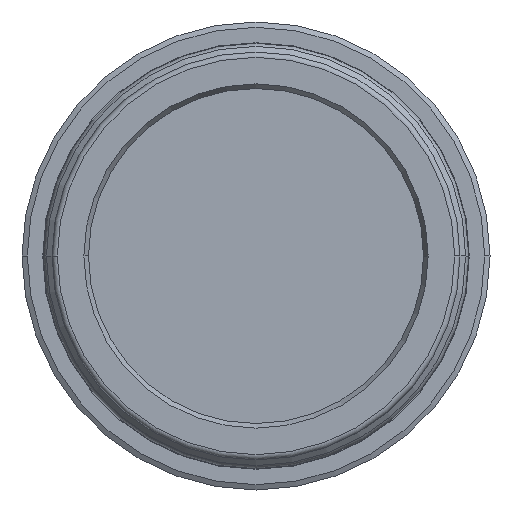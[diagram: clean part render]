
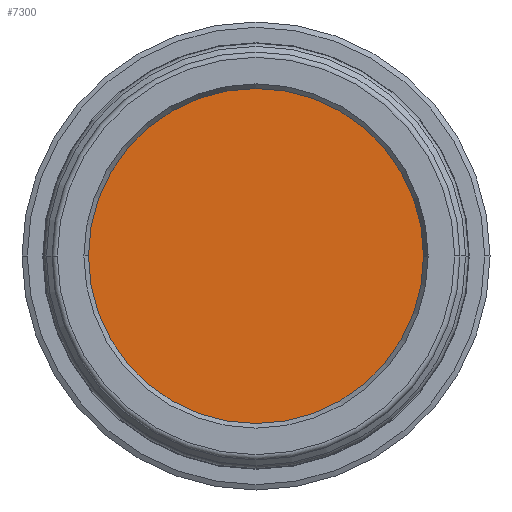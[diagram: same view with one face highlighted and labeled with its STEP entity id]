
A CAD part, front view. The second image highlights one B-rep face of the part: STEP entity #7300.
In plain terms, the highlighted planar face has unit normal (0, -1, 0).
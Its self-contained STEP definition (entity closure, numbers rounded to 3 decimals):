
#942 = PLANE ( 'NONE',  #9047 ) ;
#1652 = DIRECTION ( 'NONE',  ( 0., -1., 0. ) ) ;
#2528 = DIRECTION ( 'NONE',  ( 0., 0., -1. ) ) ;
#2584 = EDGE_CURVE ( 'NONE', #6054, #10655, #4181, .T. ) ;
#2612 = AXIS2_PLACEMENT_3D ( 'NONE', #6899, #1652, #2528 ) ;
#3265 = CARTESIAN_POINT ( 'NONE',  ( 0., 0., 0. ) ) ;
#4181 = CIRCLE ( 'NONE', #5046, 31.5 ) ;
#4858 = CARTESIAN_POINT ( 'NONE',  ( 0., 0., 31.5 ) ) ;
#5046 = AXIS2_PLACEMENT_3D ( 'NONE', #3265, #10119, #10939 ) ;
#5213 = EDGE_CURVE ( 'NONE', #10655, #6054, #7727, .T. ) ;
#6016 = DIRECTION ( 'NONE',  ( 0., 0., -1. ) ) ;
#6054 = VERTEX_POINT ( 'NONE', #4858 ) ;
#6135 = CARTESIAN_POINT ( 'NONE',  ( 0., 0., -31.5 ) ) ;
#6899 = CARTESIAN_POINT ( 'NONE',  ( 0., 0., 0. ) ) ;
#6982 = DIRECTION ( 'NONE',  ( 0., -1., 0. ) ) ;
#7013 = CARTESIAN_POINT ( 'NONE',  ( 0., 0., 0. ) ) ;
#7300 = ADVANCED_FACE ( 'NONE', ( #9837 ), #942, .T. ) ;
#7727 = CIRCLE ( 'NONE', #2612, 31.5 ) ;
#9047 = AXIS2_PLACEMENT_3D ( 'NONE', #7013, #6982, #6016 ) ;
#9837 = FACE_OUTER_BOUND ( 'NONE', #10053, .T. ) ;
#9927 = ORIENTED_EDGE ( 'NONE', *, *, #2584, .T. ) ;
#10053 = EDGE_LOOP ( 'NONE', ( #11228, #9927 ) ) ;
#10119 = DIRECTION ( 'NONE',  ( 0., -1., 0. ) ) ;
#10655 = VERTEX_POINT ( 'NONE', #6135 ) ;
#10939 = DIRECTION ( 'NONE',  ( 0., 0., -1. ) ) ;
#11228 = ORIENTED_EDGE ( 'NONE', *, *, #5213, .T. ) ;
